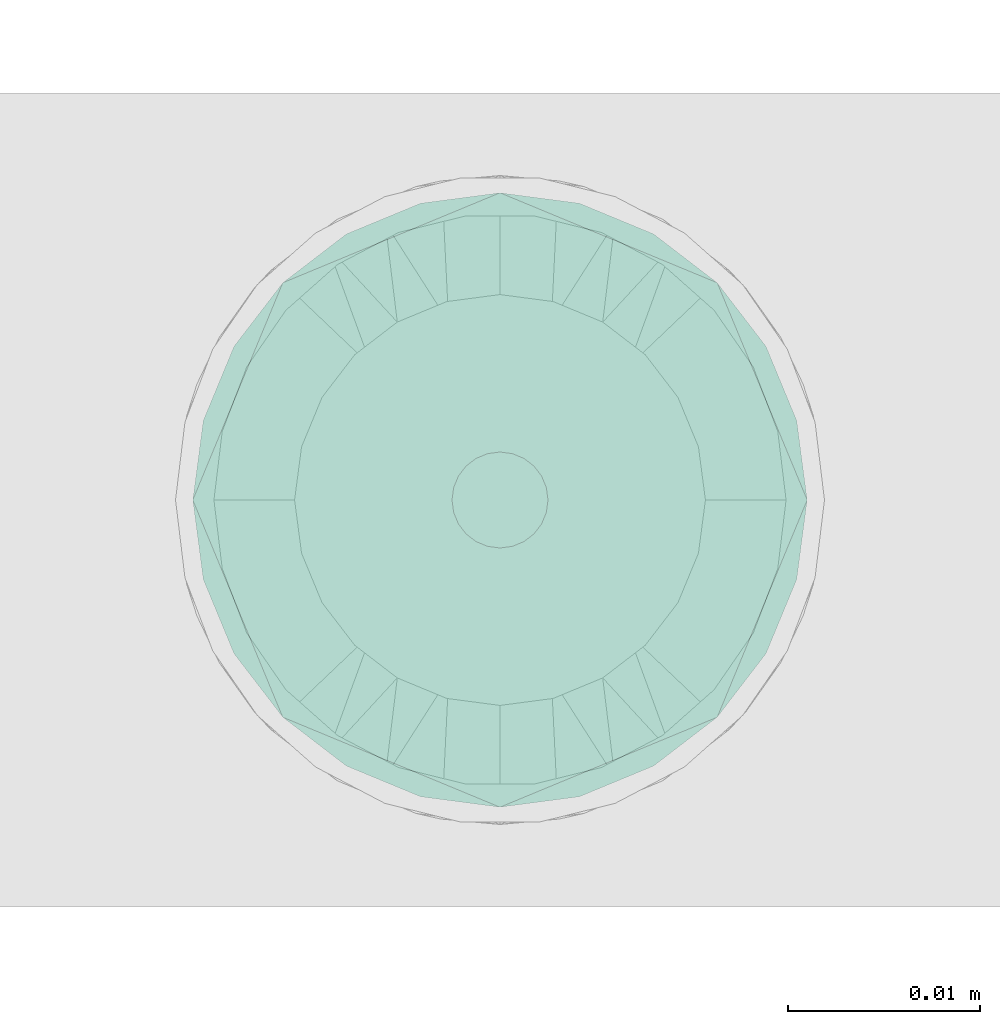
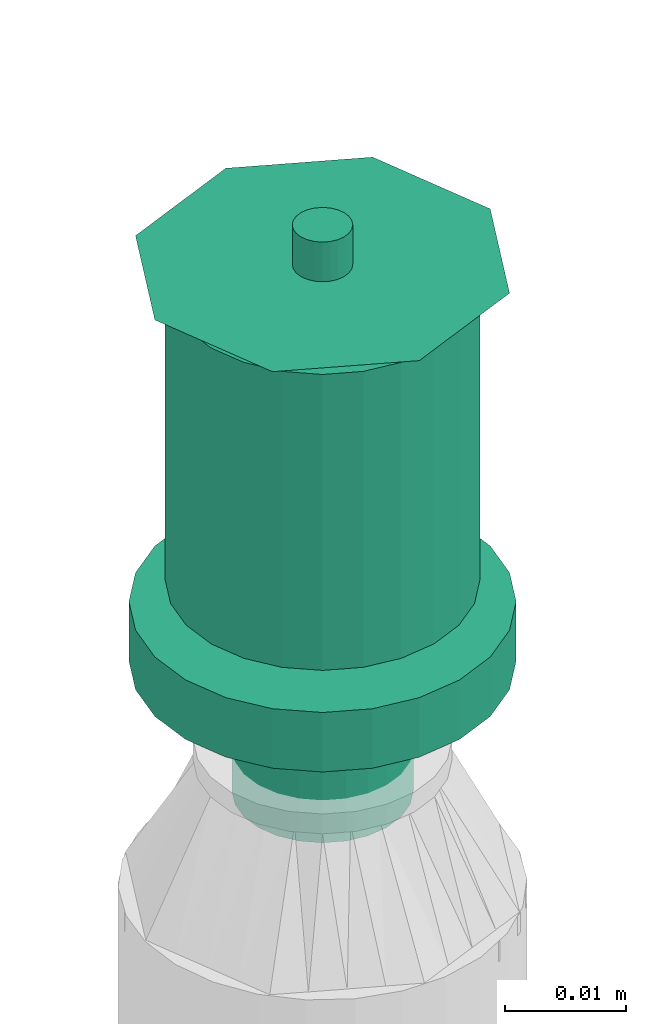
# One storey, part 30 of 94: 1 flow terminal.
"""IFC2X3 building model written with IfcOpenShell, lengths in millimetres."""

import ifcopenshell
import ifcopenshell.guid

model = None  # the IFC model being written
_history = None  # IfcOwnerHistory: only IFC2X3 demands one
_inside = {}  # id of a spatial element -> (the spatial element, [elements in it])
_under = {}  # id of a project, library or spatial element -> (it, [spatial elements below it])
_declared = {}  # id of a project -> (the project, [libraries it declares])
_typed = {}  # id of a type object -> (the type object, [elements of that type])
_made_of = {}  # id of a material, layer set ... -> (it, [elements and type objects made of it])


def new_model(schema):
    """Start an empty IFC model of exactly this schema.

    Asked for "IFC4X3", IfcOpenShell would pick the latest addendum, in which some entities
    have other attributes; the version numbers below select the first issue.
    IFC2X3 requires an IfcOwnerHistory on every rooted entity: one is made here for all.
    """
    global model, _history
    if schema == "IFC4X3":
        model = ifcopenshell.file(schema_version=(4, 3, 0, 0))
    else:
        model = ifcopenshell.file(schema=schema)
    _inside.clear()
    _under.clear()
    _declared.clear()
    _typed.clear()
    _made_of.clear()
    _history = None
    if model.schema == "IFC2X3":
        org = make("IfcOrganization", Name="unknown")
        user = make(
            "IfcPersonAndOrganization",
            ThePerson=make("IfcPerson", FamilyName="unknown"),
            TheOrganization=org,
        )
        app = make(
            "IfcApplication",
            ApplicationDeveloper=org,
            Version="unknown",
            ApplicationFullName="unknown",
            ApplicationIdentifier="unknown",
        )
        _history = make(
            "IfcOwnerHistory",
            OwningUser=user,
            OwningApplication=app,
            ChangeAction="ADDED",
            CreationDate=0,
        )
    return model


def make(cls, **values):
    """One entity of the class cls with the attributes given. An attribute that is None is left unset."""
    return model.create_entity(
        cls, **{name: value for name, value in values.items() if value is not None}
    )


def entity(cls, *values):
    """Any entity or typed value of the class cls, its attributes in the order of the schema. None: left unset."""
    e = model.create_entity(cls)
    for i, value in enumerate(values):
        if value is not None:
            e[i] = value
    return e


def rooted(cls, **values):
    """An entity with a GlobalId (a new one), such as an element, a storey or a relation."""
    return make(cls, GlobalId=ifcopenshell.guid.new(), OwnerHistory=_history, **values)


def si_unit(unit_type, name, prefix=None):
    """IfcSIUnit, for example si_unit("LENGTHUNIT", "METRE", prefix="MILLI")."""
    return make("IfcSIUnit", UnitType=unit_type, Prefix=prefix, Name=name)


def converted_unit(unit_type, name, factor, base, dimensions=None, offset=None):
    """IfcConversionBasedUnit, such as the inch: factor (a typed value) times the base unit."""
    return make(
        "IfcConversionBasedUnit"
        if offset is None
        else "IfcConversionBasedUnitWithOffset",
        ConversionOffset=offset,
        Dimensions=None
        if dimensions is None
        else entity("IfcDimensionalExponents", *dimensions),
        UnitType=unit_type,
        Name=name,
        ConversionFactor=make(
            "IfcMeasureWithUnit", ValueComponent=factor, UnitComponent=base
        ),
    )


def derived_unit(unit_type, elements):
    """IfcDerivedUnit: a product of units, each with its exponent."""
    return make(
        "IfcDerivedUnit",
        Elements=[
            make("IfcDerivedUnitElement", Unit=unit, Exponent=power)
            for unit, power in elements
        ],
        UnitType=unit_type,
    )


def assignment(units):
    """IfcUnitAssignment: the units of a project."""
    return None if units is None else make("IfcUnitAssignment", Units=units)


def point(xyz):
    """IfcCartesianPoint."""
    return None if xyz is None else make("IfcCartesianPoint", Coordinates=xyz)


def direction(xyz):
    """IfcDirection."""
    return None if xyz is None else make("IfcDirection", DirectionRatios=xyz)


def frame(location, z_axis=None, x_axis=None):
    """IfcAxis2Placement3D, a coordinate frame: its origin and axes. An axis left out is left unset."""
    return make(
        "IfcAxis2Placement3D",
        Location=point(location),
        Axis=direction(z_axis),
        RefDirection=direction(x_axis),
    )


def origin_with_axes():
    """The frame at (0, 0, 0) with the z axis (0, 0, 1) and the x axis (1, 0, 0) written out."""
    return frame((0.0, 0.0, 0.0), z_axis=(0.0, 0.0, 1.0), x_axis=(1.0, 0.0, 0.0))


def place(relative_to, where):
    """IfcLocalPlacement: puts the frame where relative to a parent placement (None: the world)."""
    return make(
        "IfcLocalPlacement", PlacementRelTo=relative_to, RelativePlacement=where
    )


def context(
    kind, dimensions, precision=None, world=None, true_north=None, identifier=None
):
    """IfcGeometricRepresentationContext, for example the 3D "Model" context."""
    return make(
        "IfcGeometricRepresentationContext",
        ContextIdentifier=identifier,
        ContextType=kind,
        CoordinateSpaceDimension=dimensions,
        Precision=precision,
        WorldCoordinateSystem=world,
        TrueNorth=true_north,
    )


def subcontext(parent, identifier, kind, view, scale=None):
    """IfcGeometricRepresentationSubContext, for example "Body" below "Model"."""
    return make(
        "IfcGeometricRepresentationSubContext",
        ContextIdentifier=identifier,
        ContextType=kind,
        ParentContext=parent,
        TargetScale=scale,
        TargetView=view,
    )


def project(units=None, contexts=None):
    """IfcProject with its units and contexts."""
    return rooted(
        "IfcProject",
        Name="project",
        RepresentationContexts=contexts,
        UnitsInContext=assignment(units),
    )


def spatial(cls, under=None, at=None, **own):
    """A site, building, storey or space (cls), placed at a placement, below another one or the project."""
    s = rooted(cls, ObjectPlacement=at, **own)
    if under is not None:
        _under.setdefault(under.id(), (under, []))[1].append(s)
    return s


def faces_of(points, faces, orient=None, outer=None):
    """IfcFace entities. A face is a list of loops; a loop is a list of indices into points, from 0.

    orient and outer hold one flag for each loop. By default every Orientation is true, the
    first loop of a face is its IfcFaceOuterBound and the others are IfcFaceBound.
    """
    made = []
    for i, loops in enumerate(faces):
        bounds = []
        for j, loop in enumerate(loops):
            is_outer = j == 0 if outer is None else outer[i][j]
            bounds.append(
                make(
                    "IfcFaceOuterBound" if is_outer else "IfcFaceBound",
                    Bound=make("IfcPolyLoop", Polygon=[points[k] for k in loop]),
                    Orientation=True if orient is None else orient[i][j],
                )
            )
        made.append(make("IfcFace", Bounds=bounds))
    return made


def open_shell(faces, orient=None, outer=None):
    """The faces of one IfcOpenShell. surface_model builds it on its shared points."""
    return ("IfcOpenShell", faces, orient, outer)


def surface_model(cls, points, shells):
    """IfcFaceBasedSurfaceModel or IfcShellBasedSurfaceModel (cls): surfaces that need not close."""
    shared = [point(p) for p in points]
    made = [make(c, CfsFaces=faces_of(shared, fs, o, b)) for c, fs, o, b in shells]
    if cls == "IfcFaceBasedSurfaceModel":
        return make(cls, FbsmFaces=made)
    return make(cls, SbsmBoundary=made)


def shape(context_of_items, identifier, shape_type, items):
    """IfcShapeRepresentation: the items that make up one representation, for example the "Body"."""
    return make(
        "IfcShapeRepresentation",
        ContextOfItems=context_of_items,
        RepresentationIdentifier=identifier,
        RepresentationType=shape_type,
        Items=items,
    )


def source(mapping_origin, context_of_items, identifier, shape_type, items):
    """IfcRepresentationMap: a shape defined once, which mapped items show again and again."""
    return make(
        "IfcRepresentationMap",
        MappingOrigin=mapping_origin,
        MappedRepresentation=shape(context_of_items, identifier, shape_type, items),
    )


def transform(
    local_origin,
    x_axis=None,
    y_axis=None,
    z_axis=None,
    scale=None,
    scale2=None,
    scale3=None,
    uniform=True,
):
    """IfcCartesianTransformationOperator3D, or its non-uniform kind. x_axis, y_axis, z_axis: its Axis1, 2, 3."""
    if uniform:
        return make(
            "IfcCartesianTransformationOperator3D",
            Axis1=direction(x_axis),
            Axis2=direction(y_axis),
            LocalOrigin=point(local_origin),
            Scale=scale,
            Axis3=direction(z_axis),
        )
    return make(
        "IfcCartesianTransformationOperator3DnonUniform",
        Axis1=direction(x_axis),
        Axis2=direction(y_axis),
        LocalOrigin=point(local_origin),
        Scale=scale,
        Axis3=direction(z_axis),
        Scale2=scale2,
        Scale3=scale3,
    )


def mapped(mapping_source, mapping_target):
    """IfcMappedItem: shows the shape of a source again, moved by a transform."""
    return make(
        "IfcMappedItem", MappingSource=mapping_source, MappingTarget=mapping_target
    )


def made_of(thing, what):
    """Note that an element or type object is made of a material, layer set ...; save() writes the relation."""
    if what is not None:
        _made_of.setdefault(what.id(), (what, []))[1].append(thing)
    return thing


def type_object(cls, material=None, **own):
    """A type object (cls), such as IfcWallType, which elements share."""
    return made_of(rooted(cls, **own), material)


def element(
    cls,
    number,
    at=None,
    inside=None,
    cuts=None,
    type_object=None,
    material=None,
    context=None,
    identifier="Body",
    shape_type=None,
    held_by="IfcProductDefinitionShape",
    body=None,
    shapes=None,
    **own,
):
    """One element of the class cls, such as IfcWall. Its Tag is "e" and its number.

    at: its placement. inside: the storey or other place that contains it. cuts: it is an
    opening in that element (IfcRelVoidsElement). A single representation is given by context,
    identifier, shape_type and body (its items); several are given by shapes. held_by: the class
    of the entity that holds the representations. save() writes the other relations.
    """
    e = rooted(cls, Tag="e%d" % number, ObjectPlacement=at, **own)
    if body is not None:
        shapes = [shape(context, identifier, shape_type, body)]
    if shapes is not None:
        e.Representation = make(held_by, Representations=shapes)
    if inside is not None:
        _inside.setdefault(inside.id(), (inside, []))[1].append(e)
    if cuts is not None:
        rooted(
            "IfcRelVoidsElement", RelatingBuildingElement=cuts, RelatedOpeningElement=e
        )
    if type_object is not None:
        _typed.setdefault(type_object.id(), (type_object, []))[1].append(e)
    return made_of(e, material)


def aggregate(whole, parts):
    """IfcRelAggregates: a whole, such as a stair, and the parts it consists of."""
    return rooted("IfcRelAggregates", RelatingObject=whole, RelatedObjects=parts)


def save(model, path):
    """Write the relations noted so far, then the file.

    IfcRelAggregates (storeys below a building ...), IfcRelContainedInSpatialStructure (elements
    in a storey), IfcRelDefinesByType, IfcRelAssociatesMaterial and IfcRelDeclares: one each for
    every whole, place, type object, material and project.
    """
    for whole, parts in _under.values():
        aggregate(whole, parts)
    for where, things in _inside.values():
        rooted(
            "IfcRelContainedInSpatialStructure",
            RelatedElements=things,
            RelatingStructure=where,
        )
    for kind, things in _typed.values():
        rooted("IfcRelDefinesByType", RelatedObjects=things, RelatingType=kind)
    for what, things in _made_of.values():
        rooted("IfcRelAssociatesMaterial", RelatedObjects=things, RelatingMaterial=what)
    for by, libraries in _declared.values():
        rooted("IfcRelDeclares", RelatingContext=by, RelatedDefinitions=libraries)
    model.write(path)


model = new_model("IFC2X3")

# Units and contexts
model_context = context("Model", 3, precision=0.01, world=frame((0.0, 4.29681676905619e-09, 0.0)), true_north=direction((4.01073788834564e-13, 1.0)))
plan_context = context("Plan", 3, precision=0.01, world=frame((0.0, 4.29681676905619e-09, 0.0)), true_north=direction((4.01073788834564e-13, 1.0)))
body_context = subcontext(model_context, "Body", "Model", "MODEL_VIEW")
ifc_project = project(units=[converted_unit("PLANEANGLEUNIT", "DEGREE", entity("IfcPositiveLengthMeasure", 0.0174532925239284), si_unit("PLANEANGLEUNIT", "RADIAN"), dimensions=[0, 0, 0, 0, 0, 0, 0]), si_unit("AREAUNIT", "SQUARE_METRE"), si_unit("LENGTHUNIT", "METRE", prefix="MILLI"), si_unit("MASSUNIT", "GRAM", prefix="KILO"), si_unit("POWERUNIT", "WATT"), si_unit("PRESSUREUNIT", "PASCAL"), si_unit("FORCEUNIT", "NEWTON", prefix="KILO"), si_unit("ELECTRICCURRENTUNIT", "AMPERE"), si_unit("THERMODYNAMICTEMPERATUREUNIT", "DEGREE_CELSIUS"), si_unit("TIMEUNIT", "SECOND"), si_unit("VOLUMEUNIT", "CUBIC_METRE"), derived_unit("LINEARVELOCITYUNIT", [(si_unit("LENGTHUNIT", "METRE"), 1), (si_unit("TIMEUNIT", "SECOND"), -1)]), derived_unit("VOLUMETRICFLOWRATEUNIT", [(si_unit("VOLUMEUNIT", "CUBIC_METRE"), 1), (si_unit("TIMEUNIT", "SECOND"), -1)]), derived_unit("THERMALTRANSMITTANCEUNIT", [(si_unit("POWERUNIT", "WATT"), 1), (si_unit("THERMODYNAMICTEMPERATUREUNIT", "KELVIN"), -1), (si_unit("AREAUNIT", "SQUARE_METRE"), -1)])], contexts=[model_context, plan_context])

# Site, building, storey
site_placement = place(None, frame((0.0, -4.29681676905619e-09, 0.0), z_axis=(0.0, 0.0, 1.0), x_axis=(1.0, 0.0, 0.0)))
site = spatial("IfcSite", under=ifc_project, at=site_placement, CompositionType="ELEMENT")
building_placement = place(site_placement, frame((0.0, 4.29681676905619e-09, 0.0), z_axis=(0.0, 0.0, 1.0), x_axis=(1.0, 0.0, 0.0)))
building = spatial("IfcBuilding", under=site, at=building_placement, Name="mc-building", CompositionType="ELEMENT")
storey_placement = place(building_placement, frame((0.0, 0.0, 200300.0), z_axis=(0.0, 0.0, 1.0), x_axis=(1.0, 0.0, 0.0)))
storey = spatial("IfcBuildingStorey", under=building, at=storey_placement, Name="Nivå C", CompositionType="ELEMENT", Elevation=200300.0)

# Flow terminal
fire_suppression_terminal_type = type_object("IfcFireSuppressionTerminalType", Name="68DGR-STD-STÅENDE", PredefinedType="NOTDEFINED")
shared_shape = source(origin_with_axes(), body_context, "Body", "SurfaceModel", [
    surface_model("IfcShellBasedSurfaceModel", [(12.55704, 3.36465, 21.14766), (13.0, 0.0, 21.14766), (12.55704, -3.36465, 21.14766), (-12.55704, -3.36465, 21.14766), (-11.25833, -6.5, 21.14766), (-11.25833, -6.5, 51.0), (3.36465, -12.55704, 51.0), (3.36465, -12.55704, 21.14766), (6.5, -11.25833, 21.14766), (9.19239, -9.19239, 21.14766), (11.25833, -6.5, 21.14766), (9.19239, -9.19239, 51.0), (6.5, -11.25833, 51.0), (11.25833, -6.5, 51.0), (12.55704, -3.36465, 51.0), (13.0, 0.0, 51.0), (9.19239, 9.19239, 51.0), (11.25833, 6.5, 21.14766), (9.19239, 9.19239, 21.14766), (11.25833, 6.5, 51.0), (12.55704, 3.36465, 51.0), (6.5, 11.25833, 51.0), (6.5, 11.25833, 21.14766), (3.36465, 12.55704, 21.14766), (3.36465, 12.55704, 51.0), (-11.25833, 6.5, 51.0), (-11.25833, 6.5, 21.14766), (-12.55704, 3.36465, 21.14766), (0.0, -2.5, 51.0), (-2.5, 0.0, 51.0), (0.0, 2.5, 51.0), (2.5, 0.0, 51.0), (11.31371, 11.31371, 53.0), (-11.31371, 11.31371, 53.0), (-11.31371, -11.31371, 53.0), (11.31371, -11.31371, 53.0), (1.62635, 1.62635, 51.0), (2.16506, 1.25, 51.0), (1.99186, 1.15, 51.0), (-1.76777, 1.76777, 51.0), (-1.25, 2.16506, 51.0), (-1.62635, 1.62635, 51.0), (1.99186, -1.15, 51.0), (2.16506, -1.25, 51.0), (1.62635, -1.62635, 51.0), (-1.62635, -1.62635, 51.0), (-1.25, -2.16506, 51.0), (-1.76777, -1.76777, 51.0), (0.0, 7.3, 0.0), (1.94114, 7.24444, 0.0), (1.88938, 7.05126, 0.0), (5.16188, 5.16188, 0.0), (6.49519, 3.75, 0.0), (6.32199, 3.65, 0.0), (-5.3033, 5.3033, 0.0), (-3.75, 6.49519, 0.0), (-5.16188, 5.16188, 0.0), (6.32199, -3.65, 0.0), (6.49519, -3.75, 0.0), (5.16188, -5.16188, 0.0), (1.88938, -7.05126, 0.0), (1.94114, -7.24444, 0.0), (0.0, -7.3, 0.0), (-5.16188, -5.16188, 0.0), (-3.75, -6.49519, 0.0), (-5.3033, -5.3033, 0.0), (-3.36465, 12.55704, 51.0), (-6.5, 11.25833, 51.0), (0.0, 13.0, 51.0), (-9.19239, 9.19239, 51.0), (0.0, -13.0, 51.0), (-9.19239, -9.19239, 51.0), (-12.55704, -3.36465, 51.0), (-6.5, -11.25833, 51.0), (-3.36465, -12.55704, 51.0), (-7.5, 0.0, -0.1), (-7.24444, 1.94114, 0.1), (-7.24444, 1.94114, -0.1), (-6.49519, 3.75, 0.1), (-6.49519, 3.75, -0.1), (-3.75, 6.49519, -0.1), (-5.3033, 5.3033, -0.1), (-3.75, 6.49519, 0.1), (-5.3033, 5.3033, 0.1), (-1.94114, 7.24444, -0.1), (-1.94114, 7.24444, 0.1), (-7.5, 0.0, 0.1), (0.0, 7.5, 0.1), (0.0, 7.5, -0.1), (1.94114, 7.24444, 0.1), (1.94114, 7.24444, -0.1), (3.75, 6.49519, 0.1), (3.75, 6.49519, -0.1), (6.49519, 3.75, -0.1), (5.3033, 5.3033, -0.1), (6.49519, 3.75, 0.1), (5.3033, 5.3033, 0.1), (7.24444, 1.94114, -0.1), (7.24444, 1.94114, 0.1), (7.5, 0.0, 0.1), (7.5, 0.0, -0.1), (-7.24444, -1.94114, 0.1), (7.24444, -1.94114, 0.1), (5.3033, -5.3033, 0.1), (6.49519, -3.75, 0.1), (-6.49519, -3.75, 0.1), (0.0, -7.5, 0.1), (1.94114, -7.24444, 0.1), (3.75, -6.49519, 0.1), (-3.75, -6.49519, 0.1), (-1.94114, -7.24444, 0.1), (-5.3033, -5.3033, 0.1), (0.0, -7.5, -0.1), (-6.49519, -3.75, -0.1), (1.94114, -7.24444, -0.1), (3.75, -6.49519, -0.1), (5.3033, -5.3033, -0.1), (7.24444, -1.94114, -0.1), (6.49519, -3.75, -0.1), (-3.75, -6.49519, -0.1), (-5.3033, -5.3033, -0.1), (-1.94114, -7.24444, -0.1), (-7.24444, -1.94114, -0.1), (16.0, 0.0, 53.0), (0.0, -16.0, 53.0), (-16.0, 0.0, 53.0), (0.0, 16.0, 53.0), (0.64705, 2.41481, 57.0), (0.0, 2.5, 57.0), (1.25, 2.16506, 57.0), (-2.5, 0.0, 57.0), (1.76777, 1.76777, 57.0), (2.41481, 0.64705, 57.0), (2.16506, 1.25, 57.0), (-0.64705, 2.41481, 57.0), (-1.25, 2.16506, 57.0), (-1.76777, 1.76777, 57.0), (-2.16506, 1.25, 57.0), (-2.41481, 0.64705, 57.0), (2.5, 0.0, 57.0), (1.76777, -1.76777, 57.0), (2.16506, -1.25, 57.0), (2.41481, -0.64705, 57.0), (-2.41481, -0.64705, 57.0), (0.64705, -2.41481, 57.0), (1.25, -2.16506, 57.0), (0.0, -2.5, 57.0), (-1.76777, -1.76777, 57.0), (-2.16506, -1.25, 57.0), (-1.25, -2.16506, 57.0), (-0.64705, -2.41481, 57.0), (1.15, -1.99186, 51.0), (1.76777, -1.76777, 51.0), (1.25, -2.16506, 51.0), (0.59528, -2.22163, 51.0), (0.0, -2.3, 51.0), (0.64705, -2.41481, 51.0), (2.22163, -0.59528, 51.0), (2.3, 0.0, 51.0), (2.41481, -0.64705, 51.0), (-0.64705, -2.41481, 51.0), (-0.59528, -2.22163, 51.0), (-1.15, -1.99186, 51.0), (-2.16506, -1.25, 51.0), (-1.99186, -1.15, 51.0), (-2.22163, -0.59528, 51.0), (-2.3, 0.0, 51.0), (-2.41481, -0.64705, 51.0), (2.22163, 0.59528, 51.0), (2.41481, 0.64705, 51.0), (1.76777, 1.76777, 51.0), (1.15, 1.99186, 51.0), (1.25, 2.16506, 51.0), (0.59528, 2.22163, 51.0), (0.0, 2.3, 51.0), (0.64705, 2.41481, 51.0), (-1.99186, 1.15, 51.0), (-2.16506, 1.25, 51.0), (-2.41481, 0.64705, 51.0), (-2.22163, 0.59528, 51.0), (-0.64705, 2.41481, 51.0), (-0.59528, 2.22163, 51.0), (-1.15, 1.99186, 51.0), (-2.22163, 0.59528, 56.8), (-1.99186, 1.15, 56.8), (-1.15, 1.99186, 56.8), (-1.62635, 1.62635, 56.8), (-0.59528, 2.22163, 56.8), (-2.3, 0.0, 56.8), (0.0, 2.3, 56.8), (0.59528, 2.22163, 56.8), (1.15, 1.99186, 56.8), (1.99186, 1.15, 56.8), (1.62635, 1.62635, 56.8), (2.22163, 0.59528, 56.8), (2.3, 0.0, 56.8), (2.22163, -0.59528, 56.8), (1.99186, -1.15, 56.8), (1.62635, -1.62635, 56.8), (1.15, -1.99186, 56.8), (0.59528, -2.22163, 56.8), (0.0, -2.3, 56.8), (-1.99186, -1.15, 56.8), (-2.22163, -0.59528, 56.8), (-1.62635, -1.62635, 56.8), (-0.59528, -2.22163, 56.8), (-1.15, -1.99186, 56.8), (8.0, -13.85641, 13.0), (4.1411, -15.45481, 13.0), (0.0, -16.0, 13.0), (-4.1411, -15.45481, 13.0), (15.45481, -4.1411, 13.0), (13.85641, -8.0, 13.0), (11.31371, -11.31371, 13.0), (-16.0, 0.0, 13.0), (-8.0, -13.85641, 13.0), (-11.31371, -11.31371, 13.0), (-13.85641, -8.0, 13.0), (-15.45481, -4.1411, 13.0), (15.45481, 4.1411, 13.0), (4.1411, 15.45481, 13.0), (13.85641, 8.0, 13.0), (8.0, 13.85641, 13.0), (11.31371, 11.31371, 13.0), (-15.45481, 4.1411, 13.0), (-11.31371, 11.31371, 13.0), (-8.0, 13.85641, 13.0), (-13.85641, 8.0, 13.0), (-4.1411, 15.45481, 13.0), (0.0, 16.0, 13.0), (16.0, 0.0, 13.0), (7.05126, 1.88938, 12.8), (1.88938, 7.05126, 12.8), (3.65, 6.32199, 12.8), (6.32199, 3.65, 12.8), (5.16188, 5.16188, 12.8), (7.3, 0.0, 12.8), (0.0, 7.3, 12.8), (-3.65, 6.32199, 12.8), (-1.88938, 7.05126, 12.8), (-5.16188, 5.16188, 12.8), (-7.05126, 1.88938, 12.8), (-6.32199, 3.65, 12.8), (7.05126, -1.88938, 12.8), (0.0, -7.3, 12.8), (6.32199, -3.65, 12.8), (3.65, -6.32199, 12.8), (5.16188, -5.16188, 12.8), (1.88938, -7.05126, 12.8), (-7.3, 0.0, 12.8), (-6.32199, -3.65, 12.8), (-7.05126, -1.88938, 12.8), (-1.88938, -7.05126, 12.8), (-5.16188, -5.16188, 12.8), (-3.65, -6.32199, 12.8), (-7.05126, 1.88938, 0.0), (-7.3, 0.0, 0.0), (-6.32199, 3.65, 0.0), (-3.65, 6.32199, 0.0), (-1.88938, 7.05126, 0.0), (3.65, 6.32199, 0.0), (7.05126, 1.88938, 0.0), (7.3, 0.0, 0.0), (3.75, 6.49519, 13.0), (1.94114, 7.24444, 13.0), (7.5, 0.0, 13.0), (5.3033, 5.3033, 13.0), (7.24444, 1.94114, 13.0), (6.49519, 3.75, 13.0), (-5.3033, 5.3033, 13.0), (-7.24444, -1.94114, 13.0), (-1.94114, 7.24444, 13.0), (-3.75, 6.49519, 13.0), (0.0, 7.5, 13.0), (-6.49519, 3.75, 13.0), (-7.24444, 1.94114, 13.0), (7.24444, -1.94114, 13.0), (5.3033, -5.3033, 13.0), (6.49519, -3.75, 13.0), (-6.49519, -3.75, 13.0), (0.0, -7.5, 13.0), (1.94114, -7.24444, 13.0), (3.75, -6.49519, 13.0), (-7.5, 0.0, 13.0), (-3.75, -6.49519, 13.0), (-1.94114, -7.24444, 13.0), (-5.3033, -5.3033, 13.0), (3.65, -6.32199, 0.0), (5.3033, -5.3033, 0.0), (3.75, -6.49519, 0.0), (0.0, -7.5, 0.0), (7.05126, -1.88938, 0.0), (7.24444, -1.94114, 0.0), (7.5, 0.0, 0.0), (-1.94114, -7.24444, 0.0), (-1.88938, -7.05126, 0.0), (-3.65, -6.32199, 0.0), (-6.49519, -3.75, 0.0), (-6.32199, -3.65, 0.0), (-7.05126, -1.88938, 0.0), (-7.24444, -1.94114, 0.0), (-7.5, 0.0, 0.0), (7.24444, 1.94114, 0.0), (5.3033, 5.3033, 0.0), (3.75, 6.49519, 0.0), (0.0, 7.5, 0.0), (-6.49519, 3.75, 0.0), (-7.24444, 1.94114, 0.0), (-1.94114, 7.24444, 0.0), (-12.55704, 3.36465, 51.0), (-13.0, 0.0, 51.0), (0.0, -13.0, 21.14766), (-3.36465, -12.55704, 21.14766), (-6.5, -11.25833, 21.14766), (-9.19239, -9.19239, 21.14766), (-13.0, 0.0, 21.14766), (-9.19239, 9.19239, 21.14766), (-6.5, 11.25833, 21.14766), (-3.36465, 12.55704, 21.14766), (0.0, 13.0, 21.14766), (11.31371, 11.31371, 19.0), (8.0, 13.85641, 19.0), (4.1411, 15.45481, 19.0), (-8.0, 13.85641, 19.0), (16.0, 0.0, 19.0), (15.45481, 4.1411, 19.0), (13.85641, 8.0, 19.0), (-4.1411, 15.45481, 19.0), (0.0, 16.0, 19.0), (-11.31371, 11.31371, 19.0), (-13.85641, 8.0, 19.0), (-15.45481, 4.1411, 19.0), (15.45481, -4.1411, 19.0), (11.31371, -11.31371, 19.0), (13.85641, -8.0, 19.0), (-16.0, 0.0, 19.0), (0.0, -16.0, 19.0), (4.1411, -15.45481, 19.0), (8.0, -13.85641, 19.0), (-13.85641, -8.0, 19.0), (-11.31371, -11.31371, 19.0), (-15.45481, -4.1411, 19.0), (-8.0, -13.85641, 19.0), (-4.1411, -15.45481, 19.0)], [open_shell([[[0, 1, 2]], [[3, 4, 5]], [[6, 7, 8]], [[9, 10, 11]], [[9, 11, 12]], [[10, 13, 11]], [[14, 13, 2]], [[1, 15, 14]], [[16, 17, 18]], [[0, 19, 20]], [[20, 15, 1]], [[21, 16, 18]], [[22, 23, 24]], [[16, 19, 17]], [[25, 26, 27]], [[28, 29, 30]], [[30, 31, 28]], [[31, 30, 32]], [[33, 30, 29]], [[29, 28, 34]], [[35, 28, 31]], [[36, 37, 38]], [[39, 40, 41]], [[42, 43, 44]], [[45, 46, 47]], [[48, 49, 50]], [[51, 52, 53]], [[54, 55, 56]], [[57, 58, 59]], [[60, 61, 62]], [[63, 64, 65]], [[66, 67, 68]], [[67, 24, 68]], [[69, 25, 67]], [[15, 20, 14]], [[70, 6, 12]], [[5, 71, 72]], [[73, 74, 71]], [[72, 71, 74]], [[75, 76, 77]], [[77, 78, 79]], [[80, 81, 82]], [[83, 81, 79]], [[84, 80, 85]], [[76, 78, 77]], [[75, 86, 76]], [[80, 82, 85]], [[82, 81, 83]], [[79, 78, 83]], [[84, 85, 87]], [[87, 88, 84]], [[88, 89, 90]], [[90, 91, 92]], [[93, 94, 95]], [[96, 94, 92]], [[97, 93, 98]], [[91, 96, 92]], [[90, 89, 91]], [[97, 98, 99]], [[98, 93, 95]], [[94, 96, 95]], [[97, 99, 100]], [[87, 89, 88]], [[91, 89, 99]], [[96, 91, 98]], [[91, 99, 98]], [[95, 96, 98]], [[89, 83, 101]], [[85, 82, 87]], [[83, 87, 82]], [[78, 76, 83]], [[89, 87, 83]], [[76, 101, 83]], [[102, 99, 89]], [[103, 104, 102]], [[89, 105, 103]], [[103, 106, 107]], [[108, 103, 107]], [[106, 103, 105]], [[89, 101, 105]], [[101, 76, 86]], [[109, 110, 111]], [[105, 111, 110]], [[106, 105, 110]], [[103, 102, 89]], [[112, 113, 114]], [[115, 114, 116]], [[117, 118, 116]], [[113, 116, 114]], [[116, 113, 117]], [[119, 120, 121]], [[113, 121, 120]], [[121, 113, 112]], [[113, 122, 117]], [[75, 77, 122]], [[100, 117, 122]], [[100, 81, 97]], [[93, 97, 90]], [[90, 92, 94]], [[93, 90, 94]], [[90, 97, 81]], [[79, 81, 77]], [[77, 81, 122]], [[84, 88, 80]], [[81, 80, 88]], [[81, 88, 90]], [[100, 122, 81]], [[100, 102, 117]], [[117, 104, 118]], [[115, 116, 108]], [[103, 116, 118]], [[114, 115, 107]], [[102, 104, 117]], [[100, 99, 102]], [[115, 108, 107]], [[108, 116, 103]], [[118, 104, 103]], [[114, 107, 106]], [[106, 112, 114]], [[112, 110, 121]], [[121, 109, 119]], [[113, 120, 105]], [[111, 120, 119]], [[122, 113, 101]], [[109, 111, 119]], [[121, 110, 109]], [[122, 101, 86]], [[101, 113, 105]], [[120, 111, 105]], [[122, 86, 75]], [[106, 110, 112]], [[31, 123, 35]], [[35, 124, 28]], [[124, 34, 28]], [[29, 34, 125]], [[33, 32, 126]], [[33, 125, 124]], [[124, 32, 33]], [[124, 35, 123]], [[124, 125, 34]], [[123, 32, 124]], [[29, 125, 33]], [[33, 126, 30]], [[126, 32, 30]], [[31, 32, 123]], [[127, 128, 129]], [[129, 130, 131]], [[132, 131, 130]], [[133, 131, 132]], [[130, 129, 128]], [[134, 135, 128]], [[136, 128, 135]], [[137, 138, 136]], [[128, 136, 130]], [[138, 130, 136]], [[139, 132, 130]], [[140, 141, 142]], [[143, 140, 139]], [[144, 140, 143]], [[145, 140, 144]], [[146, 144, 147]], [[139, 130, 143]], [[143, 148, 144]], [[149, 150, 147]], [[144, 148, 147]], [[146, 147, 150]], [[140, 142, 139]], [[151, 152, 153]], [[154, 151, 153]], [[155, 154, 156]], [[153, 156, 154]], [[28, 155, 156]], [[44, 152, 151]], [[157, 158, 159]], [[31, 159, 158]], [[43, 157, 159]], [[152, 44, 43]], [[157, 43, 42]], [[160, 161, 28]], [[161, 155, 28]], [[162, 161, 160]], [[160, 46, 162]], [[162, 46, 45]], [[47, 163, 164]], [[165, 164, 163]], [[45, 47, 164]], [[166, 165, 167]], [[163, 167, 165]], [[29, 166, 167]], [[168, 169, 31]], [[38, 169, 168]], [[169, 38, 37]], [[170, 37, 36]], [[171, 172, 170]], [[173, 172, 171]], [[174, 175, 173]], [[172, 173, 175]], [[30, 175, 174]], [[170, 36, 171]], [[39, 176, 177]], [[41, 176, 39]], [[178, 177, 176]], [[178, 179, 29]], [[176, 179, 178]], [[179, 166, 29]], [[180, 30, 181]], [[182, 180, 181]], [[182, 41, 40]], [[180, 182, 40]], [[181, 30, 174]], [[31, 158, 168]], [[29, 138, 178]], [[178, 137, 177]], [[40, 39, 135]], [[136, 39, 177]], [[180, 40, 134]], [[138, 137, 178]], [[29, 130, 138]], [[40, 135, 134]], [[135, 39, 136]], [[177, 137, 136]], [[180, 134, 128]], [[128, 30, 180]], [[30, 127, 175]], [[175, 129, 172]], [[37, 170, 133]], [[131, 170, 172]], [[169, 37, 132]], [[129, 131, 172]], [[175, 127, 129]], [[169, 132, 139]], [[132, 37, 133]], [[170, 131, 133]], [[169, 139, 31]], [[128, 127, 30]], [[179, 183, 166]], [[176, 184, 179]], [[185, 41, 182]], [[176, 41, 186]], [[187, 182, 181]], [[179, 184, 183]], [[183, 188, 166]], [[187, 185, 182]], [[186, 41, 185]], [[186, 184, 176]], [[189, 187, 181]], [[181, 174, 189]], [[173, 190, 174]], [[171, 191, 173]], [[192, 36, 38]], [[171, 36, 193]], [[194, 38, 168]], [[171, 193, 191]], [[191, 190, 173]], [[195, 194, 168]], [[192, 38, 194]], [[192, 193, 36]], [[158, 195, 168]], [[174, 190, 189]], [[31, 142, 159]], [[159, 141, 43]], [[153, 152, 145]], [[140, 152, 43]], [[156, 153, 144]], [[142, 141, 159]], [[31, 139, 142]], [[153, 145, 144]], [[145, 152, 140]], [[43, 141, 140]], [[156, 144, 146]], [[146, 28, 156]], [[28, 150, 160]], [[160, 149, 46]], [[163, 47, 148]], [[147, 47, 46]], [[167, 163, 143]], [[149, 147, 46]], [[160, 150, 149]], [[167, 143, 130]], [[143, 163, 148]], [[47, 147, 148]], [[167, 130, 29]], [[146, 150, 28]], [[190, 191, 193]], [[190, 193, 195]], [[194, 195, 193]], [[194, 193, 192]], [[190, 195, 186]], [[189, 185, 187]], [[185, 189, 186]], [[186, 183, 184]], [[186, 189, 190]], [[186, 196, 183]], [[186, 195, 196]], [[196, 197, 198]], [[196, 198, 199]], [[199, 200, 201]], [[199, 201, 196]], [[196, 201, 202]], [[188, 202, 203]], [[183, 202, 188]], [[204, 205, 206]], [[205, 204, 202]], [[201, 205, 202]], [[202, 183, 196]], [[157, 196, 158]], [[42, 197, 157]], [[199, 44, 151]], [[42, 44, 198]], [[200, 151, 154]], [[157, 197, 196]], [[196, 195, 158]], [[200, 199, 151]], [[198, 44, 199]], [[198, 197, 42]], [[201, 200, 154]], [[154, 155, 201]], [[161, 205, 155]], [[162, 206, 161]], [[202, 45, 164]], [[162, 45, 204]], [[203, 164, 165]], [[162, 204, 206]], [[206, 205, 161]], [[188, 203, 165]], [[202, 164, 203]], [[202, 204, 45]], [[166, 188, 165]], [[155, 205, 201]], [[207, 208, 209]], [[207, 209, 210]], [[211, 212, 213]], [[213, 207, 214]], [[211, 213, 214]], [[215, 216, 210]], [[217, 210, 216]], [[217, 218, 210]], [[218, 207, 210]], [[218, 214, 207]], [[214, 219, 211]], [[220, 219, 214]], [[221, 219, 220]], [[220, 222, 223]], [[221, 220, 223]], [[214, 224, 220]], [[225, 226, 227]], [[224, 227, 226]], [[228, 229, 226]], [[220, 224, 226]], [[226, 229, 220]], [[219, 230, 211]], [[231, 232, 233]], [[234, 233, 235]], [[231, 236, 232]], [[231, 233, 234]], [[232, 236, 237]], [[237, 238, 239]], [[238, 237, 240]], [[240, 241, 242]], [[240, 237, 236]], [[236, 241, 240]], [[236, 243, 241]], [[244, 243, 245]], [[246, 245, 247]], [[246, 248, 244]], [[246, 244, 245]], [[243, 244, 249]], [[249, 250, 251]], [[250, 249, 252]], [[253, 252, 254]], [[252, 253, 250]], [[249, 244, 252]], [[243, 249, 241]], [[255, 241, 256]], [[257, 242, 255]], [[238, 56, 258]], [[257, 56, 240]], [[239, 258, 259]], [[255, 242, 241]], [[241, 249, 256]], [[239, 238, 258]], [[240, 56, 238]], [[240, 242, 257]], [[237, 239, 259]], [[259, 48, 237]], [[50, 232, 48]], [[260, 233, 50]], [[234, 51, 53]], [[260, 51, 235]], [[231, 53, 261]], [[260, 235, 233]], [[233, 232, 50]], [[236, 231, 261]], [[234, 53, 231]], [[234, 235, 51]], [[262, 236, 261]], [[48, 232, 237]], [[263, 264, 265]], [[266, 263, 267]], [[263, 265, 267]], [[268, 266, 267]], [[264, 269, 270]], [[271, 272, 273]], [[269, 273, 272]], [[274, 275, 269]], [[264, 273, 269]], [[275, 270, 269]], [[276, 265, 264]], [[277, 278, 276]], [[264, 279, 277]], [[277, 280, 281]], [[282, 277, 281]], [[280, 277, 279]], [[264, 270, 279]], [[270, 275, 283]], [[284, 285, 286]], [[279, 286, 285]], [[280, 279, 285]], [[277, 276, 264]], [[287, 288, 289]], [[60, 287, 289]], [[290, 62, 61]], [[289, 61, 60]], [[59, 288, 287]], [[291, 262, 292]], [[293, 292, 262]], [[58, 291, 292]], [[288, 59, 58]], [[291, 58, 57]], [[294, 295, 290]], [[296, 295, 294]], [[294, 64, 296]], [[64, 63, 296]], [[295, 62, 290]], [[65, 297, 298]], [[299, 298, 297]], [[63, 65, 298]], [[256, 299, 300]], [[297, 300, 299]], [[301, 256, 300]], [[261, 302, 293]], [[53, 302, 261]], [[302, 53, 52]], [[303, 52, 51]], [[260, 304, 303]], [[50, 304, 260]], [[304, 50, 49]], [[305, 49, 48]], [[303, 51, 260]], [[54, 257, 306]], [[56, 257, 54]], [[307, 306, 257]], [[307, 255, 301]], [[257, 255, 307]], [[255, 256, 301]], [[308, 305, 259]], [[258, 308, 259]], [[55, 258, 56]], [[308, 258, 55]], [[259, 305, 48]], [[293, 262, 261]], [[301, 275, 307]], [[307, 274, 306]], [[55, 54, 272]], [[269, 54, 306]], [[308, 55, 271]], [[275, 274, 307]], [[301, 283, 275]], [[55, 272, 271]], [[272, 54, 269]], [[306, 274, 269]], [[308, 271, 273]], [[273, 305, 308]], [[305, 264, 49]], [[49, 263, 304]], [[52, 303, 268]], [[266, 303, 304]], [[302, 52, 267]], [[263, 266, 304]], [[49, 264, 263]], [[302, 267, 265]], [[267, 52, 268]], [[303, 266, 268]], [[302, 265, 293]], [[273, 264, 305]], [[293, 276, 292]], [[292, 278, 58]], [[289, 288, 282]], [[277, 288, 58]], [[61, 289, 281]], [[276, 278, 292]], [[293, 265, 276]], [[289, 282, 281]], [[282, 288, 277]], [[58, 278, 277]], [[61, 281, 280]], [[280, 290, 61]], [[290, 285, 294]], [[294, 284, 64]], [[297, 65, 279]], [[286, 65, 64]], [[300, 297, 270]], [[284, 286, 64]], [[294, 285, 284]], [[300, 270, 283]], [[270, 297, 279]], [[65, 286, 279]], [[300, 283, 301]], [[280, 285, 290]], [[291, 243, 262]], [[57, 245, 291]], [[246, 59, 287]], [[57, 59, 247]], [[248, 287, 60]], [[291, 245, 243]], [[243, 236, 262]], [[248, 246, 287]], [[247, 59, 246]], [[247, 245, 57]], [[244, 248, 60]], [[60, 62, 244]], [[295, 252, 62]], [[296, 254, 295]], [[250, 63, 298]], [[296, 63, 253]], [[251, 298, 299]], [[296, 253, 254]], [[254, 252, 295]], [[249, 251, 299]], [[250, 298, 251]], [[250, 253, 63]], [[256, 249, 299]], [[62, 252, 244]], [[16, 21, 24]], [[20, 16, 24]], [[24, 67, 72]], [[19, 16, 20]], [[24, 72, 20]], [[25, 72, 67]], [[309, 310, 25]], [[11, 13, 14]], [[72, 11, 20]], [[74, 12, 11]], [[12, 74, 70]], [[72, 25, 310]], [[72, 74, 11]], [[11, 14, 20]], [[8, 7, 311]], [[8, 311, 312]], [[2, 10, 9]], [[3, 9, 8]], [[3, 26, 9]], [[313, 314, 312]], [[3, 312, 314]], [[4, 3, 314]], [[3, 8, 312]], [[315, 26, 3]], [[2, 9, 26]], [[0, 2, 26]], [[17, 0, 18]], [[23, 22, 18]], [[0, 23, 18]], [[23, 0, 26]], [[316, 317, 26]], [[26, 315, 27]], [[318, 319, 317]], [[23, 26, 317]], [[23, 317, 319]], [[316, 26, 25]], [[318, 317, 67]], [[69, 317, 316]], [[319, 318, 66]], [[310, 309, 315]], [[27, 315, 309]], [[25, 27, 309]], [[25, 69, 316]], [[317, 69, 67]], [[67, 66, 318]], [[66, 68, 319]], [[22, 21, 18]], [[0, 17, 19]], [[1, 0, 20]], [[68, 24, 23]], [[24, 21, 22]], [[319, 68, 23]], [[1, 14, 2]], [[2, 13, 10]], [[6, 311, 7]], [[6, 8, 12]], [[12, 8, 9]], [[6, 70, 311]], [[313, 312, 74]], [[313, 73, 314]], [[71, 4, 314]], [[315, 3, 72]], [[70, 74, 312]], [[74, 73, 313]], [[73, 71, 314]], [[71, 5, 4]], [[3, 5, 72]], [[72, 310, 315]], [[311, 70, 312]], [[320, 321, 322]], [[320, 322, 323]], [[320, 324, 325]], [[326, 320, 325]], [[324, 320, 323]], [[327, 323, 328]], [[323, 322, 328]], [[329, 330, 323]], [[331, 323, 330]], [[323, 331, 324]], [[331, 332, 324]], [[333, 334, 332]], [[335, 333, 331]], [[336, 337, 338]], [[335, 338, 333]], [[338, 335, 336]], [[339, 340, 341]], [[335, 341, 340]], [[342, 343, 340]], [[335, 340, 343]], [[343, 336, 335]], [[332, 331, 333]], [[214, 331, 224]], [[224, 330, 227]], [[226, 225, 323]], [[329, 225, 227]], [[228, 226, 327]], [[331, 330, 224]], [[214, 335, 331]], [[226, 323, 327]], [[323, 225, 329]], [[227, 330, 329]], [[228, 327, 328]], [[328, 229, 228]], [[229, 322, 220]], [[220, 321, 222]], [[221, 223, 326]], [[320, 223, 222]], [[219, 221, 325]], [[321, 320, 222]], [[220, 322, 321]], [[219, 325, 324]], [[325, 221, 326]], [[223, 320, 326]], [[219, 324, 230]], [[328, 322, 229]], [[230, 332, 211]], [[211, 334, 212]], [[207, 213, 338]], [[333, 213, 212]], [[208, 207, 337]], [[332, 334, 211]], [[230, 324, 332]], [[207, 338, 337]], [[338, 213, 333]], [[212, 334, 333]], [[208, 337, 336]], [[336, 209, 208]], [[209, 343, 210]], [[210, 342, 215]], [[217, 216, 339]], [[340, 216, 215]], [[218, 217, 341]], [[342, 340, 215]], [[210, 343, 342]], [[218, 341, 335]], [[341, 217, 339]], [[216, 340, 339]], [[218, 335, 214]], [[336, 343, 209]]])]),
])
flow_terminal_placement = place(storey_placement, frame((524508.72873, 407003.74497, 2972.0), z_axis=(0.0, 0.0, 1.0), x_axis=(-1.0, 0.0, 0.0)))
element("IfcFlowTerminal", 1, at=flow_terminal_placement, inside=storey, type_object=fire_suppression_terminal_type, Name="68DGR-STD-STÅENDE", context=body_context, shape_type="MappedRepresentation", body=[
    mapped(shared_shape, transform((0.0, 0.0, 0.0), scale=1.0)),
])

save(model, "model.ifc")
